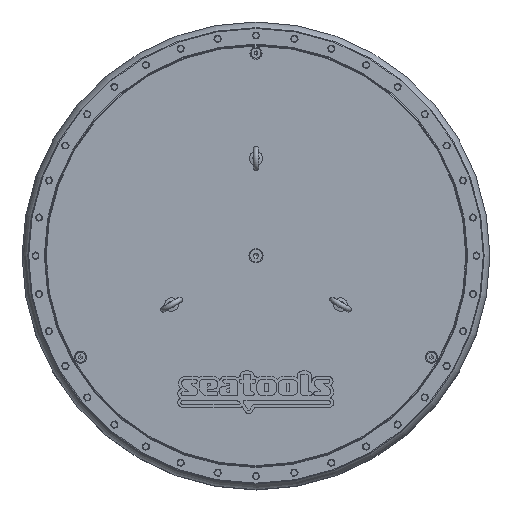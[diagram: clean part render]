
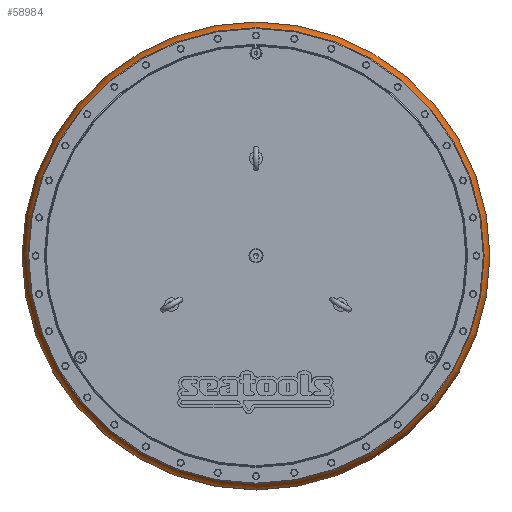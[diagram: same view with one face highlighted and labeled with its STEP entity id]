
A CAD part, top view. The second image highlights one B-rep face of the part: STEP entity #58984.
In plain terms, the highlighted toroidal (fillet/blend) face has major radius 540.468 mm and minor radius 59.532 mm.
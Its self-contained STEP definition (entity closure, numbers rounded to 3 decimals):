
#1193=TOROIDAL_SURFACE('',#63231,540.468,59.532);
#3951=FACE_BOUND('',#21519,.T.);
#17571=FACE_OUTER_BOUND('',#21518,.T.);
#21518=EDGE_LOOP('',(#48691));
#21519=EDGE_LOOP('',(#48692));
#24956=CIRCLE('',#63230,558.463);
#24957=CIRCLE('',#63232,534.887);
#29171=VERTEX_POINT('',#106650);
#29172=VERTEX_POINT('',#106653);
#36099=EDGE_CURVE('',#29171,#29171,#24956,.T.);
#36100=EDGE_CURVE('',#29172,#29172,#24957,.T.);
#48691=ORIENTED_EDGE('',*,*,#36099,.F.);
#48692=ORIENTED_EDGE('',*,*,#36100,.T.);
#58984=ADVANCED_FACE('',(#17571,#3951),#1193,.T.);
#63230=AXIS2_PLACEMENT_3D('',#106651,#73271,#73272);
#63231=AXIS2_PLACEMENT_3D('',#106652,#73273,#73274);
#63232=AXIS2_PLACEMENT_3D('',#106654,#73275,#73276);
#73271=DIRECTION('center_axis',(0.,0.,
1.));
#73272=DIRECTION('ref_axis',(-1.,0.,0.));
#73273=DIRECTION('center_axis',(0.,0.,
1.));
#73274=DIRECTION('ref_axis',(0.,1.,0.));
#73275=DIRECTION('center_axis',(0.,0.,
1.));
#73276=DIRECTION('ref_axis',(-1.,0.,0.));
#106650=CARTESIAN_POINT('',(-558.463,0.,459.155));
#106651=CARTESIAN_POINT('Origin',(0.,0.,
459.155));
#106652=CARTESIAN_POINT('Origin',(0.,0.,
402.408));
#106653=CARTESIAN_POINT('',(-534.887,0.,343.138));
#106654=CARTESIAN_POINT('Origin',(0.,0.,
343.138));
